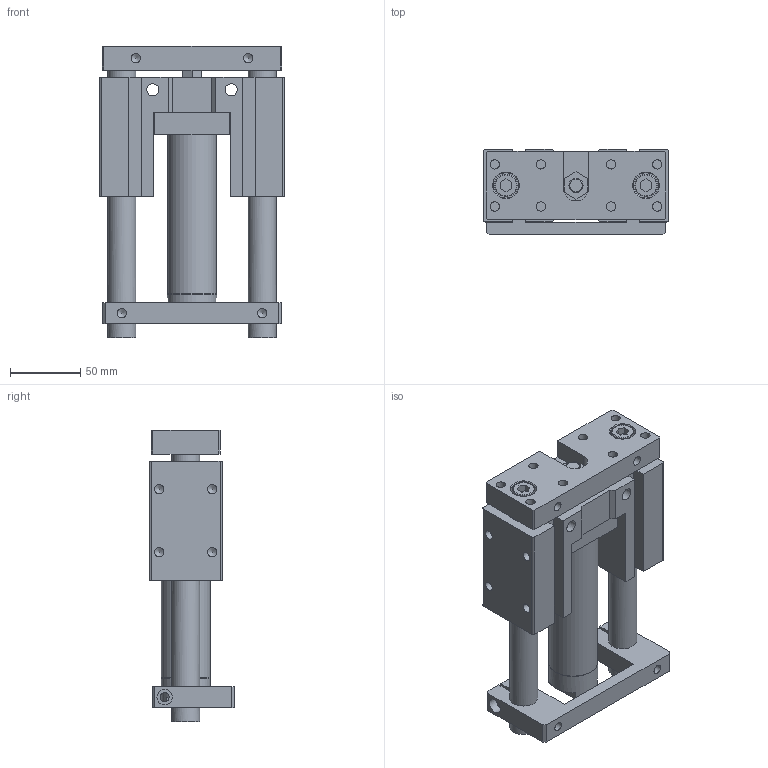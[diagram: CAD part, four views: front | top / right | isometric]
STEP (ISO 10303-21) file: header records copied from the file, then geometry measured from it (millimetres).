
FILE_DESCRIPTION((''),'2;1');
FILE_NAME('I:\3D電子目錄\氣缸\TMB(U)\TMB(U)\TMB(U)32\TMB(U)32x75.stp','2007-10-05T11:16:17',('Administrator'),(''),'Autodesk Inventor 11','Autodesk Inventor 11','');
FILE_SCHEMA(('AUTOMOTIVE_DESIGN { 1 0 10303 214 1 1 1 1 }'));
Length unit declared in the file: millimetre
Products named in the file (1): TMB(U)32
Bounding box: 132 x 61 x 208 mm (x, y, z)
Volume: 729290.6 mm3; surface area: 125308.1 mm2
Topology: 1 solids, 1 shells, 198 faces, 514 edges, 338 vertices
Faces by surface type: plane 117, bspline 41, cylinder 23, cone 15, torus 2
Full cylindrical faces by diameter (mm): 6.5 x2, 6.647 x6, 10 x1, 11 x1, 16 x2, 18 x2, 20 x2, 35 x2
Entity records: 6000 total; most frequent: CARTESIAN_POINT 1554, DIRECTION 850, ORIENTED_EDGE 842, EDGE_CURVE 421, EDGE_LOOP 320, VERTEX_POINT 313, VECTOR 300, LINE 300
